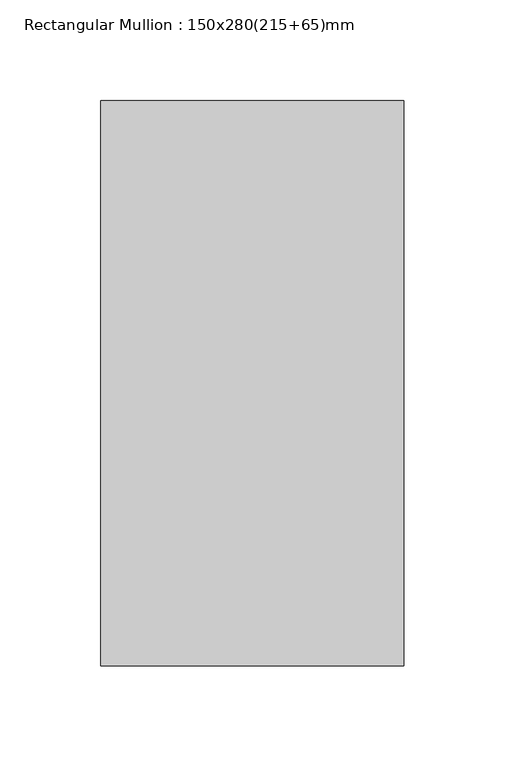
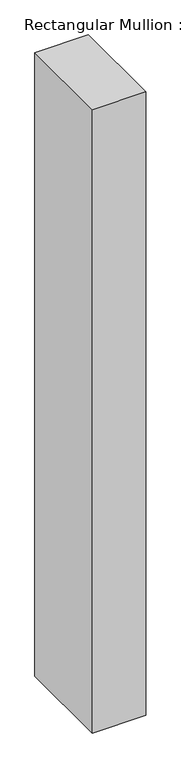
"""IFC4 building model written with IfcOpenShell, lengths in millimetres: member geometry, Rectangular Mullion : 150x280(215+65)mm."""

from ifc_helpers import new_model, si_unit, frame, origin, place, context, project, spatial, polyline, outline, extrude, source, transform, mapped, element, save


def rectangular_mullion_150x280_215_65_mm_7dc92b6d(model_context):
    return source(origin(), model_context, "Body", "SweptSolid", [
        extrude(outline(polyline([(0.0, 215.0), (0.0, -65.0), (-150.0, -65.0), (-150.0, 215.0), (0.0, 215.0)])), frame((0.0, 0.0, -1855.0), z_axis=(0.0, 0.0, 1.0), x_axis=(1.0, 0.0, 0.0)), (0.0, 0.0, 1.0), 1855.0),
    ])


if __name__ == "__main__":
    model = new_model("IFC4")
    model_context = context("Model", 3, world=origin())
    ifc_project = project(units=[si_unit("LENGTHUNIT", "METRE", prefix="MILLI")], contexts=[model_context])
    site = spatial("IfcSite", under=ifc_project)
    building = spatial("IfcBuilding", under=site)
    placement = place(None, origin())
    rectangular_mullion_150x280_215_65_mm_shape = rectangular_mullion_150x280_215_65_mm_7dc92b6d(model_context)
    element("IfcMember", 1, ObjectType="Rectangular Mullion : 150x280(215+65)mm", at=placement, inside=building, context=model_context, shape_type="MappedRepresentation", body=[
        mapped(rectangular_mullion_150x280_215_65_mm_shape, transform((0.0, 0.0, 0.0), x_axis=(1.0, 0.0, 0.0), y_axis=(0.0, 1.0, 0.0), z_axis=(0.0, 0.0, 1.0))),
    ])
    save(model, "model.ifc")
